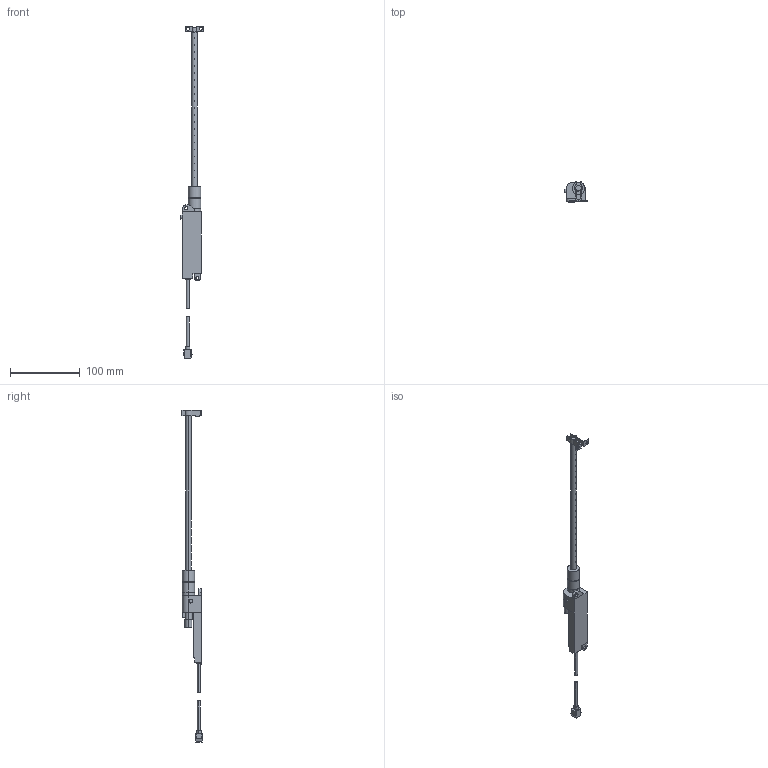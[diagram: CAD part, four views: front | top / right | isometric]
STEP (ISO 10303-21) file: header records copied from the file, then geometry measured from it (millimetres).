
FILE_DESCRIPTION (( 'STEP AP203' ), '1' );
FILE_NAME ('ER-VS01(+ER-VAB020).STEP', '2005-09-06T02:40:51', ( '' ), ( '' ), 'SwSTEP 2.0', 'SolidWorks 2004073', '' );
FILE_SCHEMA (( 'CONFIG_CONTROL_DESIGN' ));
Length unit declared in the file: millimetre
Products named in the file (3): ER-VAB020_蹬怮椔; ER-VS01(+ER-VAB020); ER-VS01_蹬怮椔
Assembly tree (2 placements, depth 2):
  ER-VS01(+ER-VAB020)
    ER-VS01_蹬怮椔
    ER-VAB020_蹬怮椔
Bounding box: 33 x 28.9 x 477.3 mm (x, y, z)
Volume: 61600.4 mm3; surface area: 27913.5 mm2
Topology: 4 solids, 4 shells, 230 faces, 597 edges, 395 vertices
Faces by surface type: plane 117, cylinder 113
Entity records: 8004 total; most frequent: CARTESIAN_POINT 1983, ORIENTED_EDGE 1194, DIRECTION 1125, EDGE_CURVE 597, VERTEX_POINT 395, AXIS2_PLACEMENT_3D 377, VECTOR 371, LINE 371
